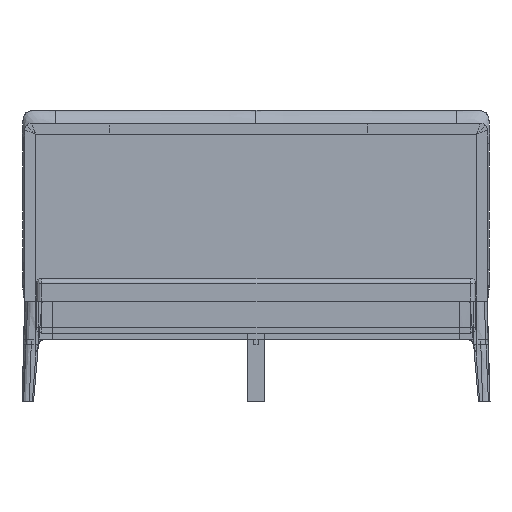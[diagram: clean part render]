
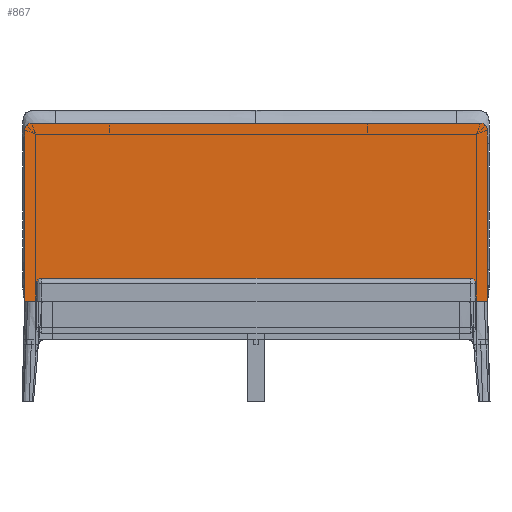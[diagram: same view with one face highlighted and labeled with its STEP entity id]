
A CAD part, front view. The second image highlights one B-rep face of the part: STEP entity #867.
In plain terms, the highlighted planar face has unit normal (0, -1, 0).
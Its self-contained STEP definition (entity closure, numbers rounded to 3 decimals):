
#867=ADVANCED_FACE('',(#1916),#14603,.T.);
#1916=FACE_OUTER_BOUND('',#2968,.T.);
#2968=EDGE_LOOP('',(#5333,#5334,#5335,#5336,#5337,#5338));
#5333=ORIENTED_EDGE('',*,*,#9071,.T.);
#5334=ORIENTED_EDGE('',*,*,#9067,.T.);
#5335=ORIENTED_EDGE('',*,*,#9107,.T.);
#5336=ORIENTED_EDGE('',*,*,#9092,.T.);
#5337=ORIENTED_EDGE('',*,*,#9095,.T.);
#5338=ORIENTED_EDGE('',*,*,#9111,.T.);
#9067=EDGE_CURVE('',#13340,#13339,#10778,.T.);
#9071=EDGE_CURVE('',#13341,#13340,#10782,.T.);
#9092=EDGE_CURVE('',#13353,#13355,#10794,.T.);
#9095=EDGE_CURVE('',#13355,#13356,#10797,.T.);
#9107=EDGE_CURVE('',#13339,#13353,#11497,.T.);
#9111=EDGE_CURVE('',#13356,#13341,#11501,.T.);
#10778=(
BOUNDED_CURVE()
B_SPLINE_CURVE(2,(#111658,#111659,#111660),.UNSPECIFIED.,.F.,.F.)
B_SPLINE_CURVE_WITH_KNOTS((3,3),(-12612.08,-11987.08),
 .UNSPECIFIED.)
CURVE()
GEOMETRIC_REPRESENTATION_ITEM()
RATIONAL_B_SPLINE_CURVE((1.,1.,1.))
REPRESENTATION_ITEM('')
);
#10782=(
BOUNDED_CURVE()
B_SPLINE_CURVE(2,(#111668,#111669,#111670),.UNSPECIFIED.,.F.,.F.)
B_SPLINE_CURVE_WITH_KNOTS((3,3),(-7600.81,-7561.54),
 .UNSPECIFIED.)
CURVE()
GEOMETRIC_REPRESENTATION_ITEM()
RATIONAL_B_SPLINE_CURVE((1.,0.707,1.))
REPRESENTATION_ITEM('')
);
#10794=(
BOUNDED_CURVE()
B_SPLINE_CURVE(2,(#111822,#111823,#111824),.UNSPECIFIED.,.F.,.F.)
B_SPLINE_CURVE_WITH_KNOTS((3,3),(-10101.08,-9476.08),
 .UNSPECIFIED.)
CURVE()
GEOMETRIC_REPRESENTATION_ITEM()
RATIONAL_B_SPLINE_CURVE((1.,1.,1.))
REPRESENTATION_ITEM('')
);
#10797=(
BOUNDED_CURVE()
B_SPLINE_CURVE(2,(#111830,#111831,#111832),.UNSPECIFIED.,.F.,.F.)
B_SPLINE_CURVE_WITH_KNOTS((3,3),(-9476.08,-9436.81),
 .UNSPECIFIED.)
CURVE()
GEOMETRIC_REPRESENTATION_ITEM()
RATIONAL_B_SPLINE_CURVE((1.,0.707,1.))
REPRESENTATION_ITEM('')
);
#11497=B_SPLINE_CURVE_WITH_KNOTS('',1,(#111873,#111874),.UNSPECIFIED.,.F.,
 .F.,(2,2),(0.,1686.),.UNSPECIFIED.);
#11501=B_SPLINE_CURVE_WITH_KNOTS('',1,(#111881,#111882),.UNSPECIFIED.,.F.,
 .F.,(2,2),(0.,1636.),.UNSPECIFIED.);
#13339=VERTEX_POINT('',#111593);
#13340=VERTEX_POINT('',#111594);
#13341=VERTEX_POINT('',#111595);
#13353=VERTEX_POINT('',#111607);
#13355=VERTEX_POINT('',#111609);
#13356=VERTEX_POINT('',#111610);
#14603=PLANE('',#15324);
#15324=AXIS2_PLACEMENT_3D('',#111574,#16000,$);
#16000=DIRECTION('',(0.,-1.,0.));
#111574=CARTESIAN_POINT('',(886.512,-3475.216,1080.));
#111593=CARTESIAN_POINT('',(-843.,-3475.216,365.));
#111594=CARTESIAN_POINT('',(-843.,-3475.216,990.));
#111595=CARTESIAN_POINT('',(-818.,-3475.216,1015.));
#111607=CARTESIAN_POINT('',(843.,-3475.216,365.));
#111609=CARTESIAN_POINT('',(843.,-3475.216,990.));
#111610=CARTESIAN_POINT('',(818.,-3475.216,1015.));
#111658=CARTESIAN_POINT('',(-843.,-3475.216,990.));
#111659=CARTESIAN_POINT('',(-843.,-3475.216,677.5));
#111660=CARTESIAN_POINT('',(-843.,-3475.216,365.));
#111668=CARTESIAN_POINT('',(-818.,-3475.216,1015.));
#111669=CARTESIAN_POINT('',(-843.,-3475.216,1015.));
#111670=CARTESIAN_POINT('',(-843.,-3475.216,990.));
#111822=CARTESIAN_POINT('',(843.,-3475.216,365.));
#111823=CARTESIAN_POINT('',(843.,-3475.216,677.5));
#111824=CARTESIAN_POINT('',(843.,-3475.216,990.));
#111830=CARTESIAN_POINT('',(843.,-3475.216,990.));
#111831=CARTESIAN_POINT('',(843.,-3475.216,1015.));
#111832=CARTESIAN_POINT('',(818.,-3475.216,1015.));
#111873=CARTESIAN_POINT('',(-843.,-3475.216,365.));
#111874=CARTESIAN_POINT('',(843.,-3475.216,365.));
#111881=CARTESIAN_POINT('',(818.,-3475.216,1015.));
#111882=CARTESIAN_POINT('',(-818.,-3475.216,1015.));
